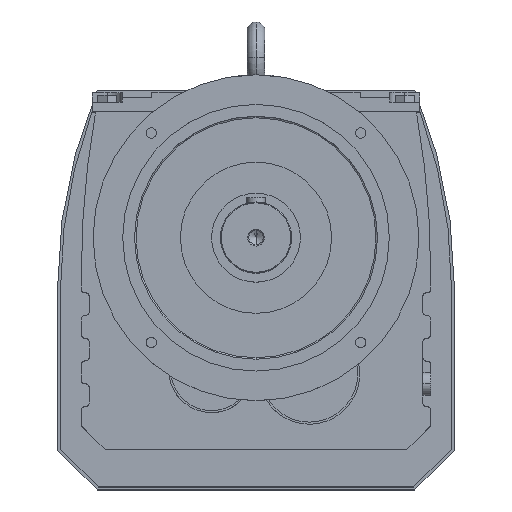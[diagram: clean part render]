
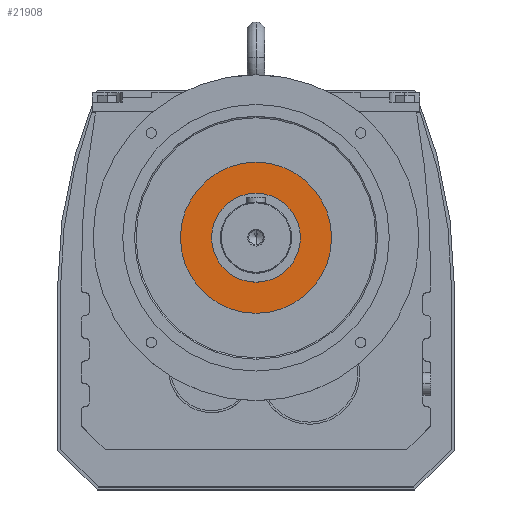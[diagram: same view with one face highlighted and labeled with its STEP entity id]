
A CAD part, top view. The second image highlights one B-rep face of the part: STEP entity #21908.
In plain terms, the highlighted planar face has unit normal (0, 0, 1).
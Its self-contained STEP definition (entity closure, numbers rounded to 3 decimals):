
#21765 = CYLINDRICAL_SURFACE('',#21766,127.575);
#21766 = AXIS2_PLACEMENT_3D('',#21767,#21768,#21769);
#21767 = CARTESIAN_POINT('',(0.,59.9,790.));
#21768 = DIRECTION('',(0.,0.,1.));
#21769 = DIRECTION('',(0.,-1.,0.));
#21795 = CYLINDRICAL_SURFACE('',#21796,127.575);
#21796 = AXIS2_PLACEMENT_3D('',#21797,#21798,#21799);
#21797 = CARTESIAN_POINT('',(0.,59.9,790.));
#21798 = DIRECTION('',(0.,0.,1.));
#21799 = DIRECTION('',(0.,-1.,0.));
#21813 = EDGE_CURVE('',#21814,#21816,#21818,.T.);
#21814 = VERTEX_POINT('',#21815);
#21815 = CARTESIAN_POINT('',(0.,-67.675,559.));
#21816 = VERTEX_POINT('',#21817);
#21817 = CARTESIAN_POINT('',(0.,187.475,559.));
#21818 = SURFACE_CURVE('',#21819,(#21824,#21830),.PCURVE_S1.);
#21819 = CIRCLE('',#21820,127.575);
#21820 = AXIS2_PLACEMENT_3D('',#21821,#21822,#21823);
#21821 = CARTESIAN_POINT('',(0.,59.9,559.));
#21822 = DIRECTION('',(0.,0.,-1.));
#21823 = DIRECTION('',(-1.,0.,0.));
#21824 = PCURVE('',#21795,#21825);
#21825 = DEFINITIONAL_REPRESENTATION('',(#21826),#21829);
#21826 = B_SPLINE_CURVE_WITH_KNOTS('',1,(#21827,#21828),.UNSPECIFIED.,
  .F.,.F.,(2,2),(4.712,7.854),
  .PIECEWISE_BEZIER_KNOTS.);
#21827 = CARTESIAN_POINT('',(6.283,-231.));
#21828 = CARTESIAN_POINT('',(3.142,-231.));
#21829 = ( GEOMETRIC_REPRESENTATION_CONTEXT(2) 
PARAMETRIC_REPRESENTATION_CONTEXT() REPRESENTATION_CONTEXT('2D SPACE',''
  ) );
#21830 = PCURVE('',#21831,#21836);
#21831 = PLANE('',#21832);
#21832 = AXIS2_PLACEMENT_3D('',#21833,#21834,#21835);
#21833 = CARTESIAN_POINT('',(-55.032,39.332,559.));
#21834 = DIRECTION('',(0.,0.,-1.));
#21835 = DIRECTION('',(-1.,0.,0.));
#21836 = DEFINITIONAL_REPRESENTATION('',(#21837),#21841);
#21837 = CIRCLE('',#21838,127.575);
#21838 = AXIS2_PLACEMENT_2D('',#21839,#21840);
#21839 = CARTESIAN_POINT('',(-55.032,20.568));
#21840 = DIRECTION('',(1.,0.));
#21841 = ( GEOMETRIC_REPRESENTATION_CONTEXT(2) 
PARAMETRIC_REPRESENTATION_CONTEXT() REPRESENTATION_CONTEXT('2D SPACE',''
  ) );
#21888 = EDGE_CURVE('',#21816,#21814,#21889,.T.);
#21889 = SURFACE_CURVE('',#21890,(#21895,#21901),.PCURVE_S1.);
#21890 = CIRCLE('',#21891,127.575);
#21891 = AXIS2_PLACEMENT_3D('',#21892,#21893,#21894);
#21892 = CARTESIAN_POINT('',(0.,59.9,559.));
#21893 = DIRECTION('',(0.,0.,-1.));
#21894 = DIRECTION('',(-1.,0.,0.));
#21895 = PCURVE('',#21765,#21896);
#21896 = DEFINITIONAL_REPRESENTATION('',(#21897),#21900);
#21897 = B_SPLINE_CURVE_WITH_KNOTS('',1,(#21898,#21899),.UNSPECIFIED.,
  .F.,.F.,(2,2),(1.571,4.712),
  .PIECEWISE_BEZIER_KNOTS.);
#21898 = CARTESIAN_POINT('',(3.142,-231.));
#21899 = CARTESIAN_POINT('',(0.,-231.));
#21900 = ( GEOMETRIC_REPRESENTATION_CONTEXT(2) 
PARAMETRIC_REPRESENTATION_CONTEXT() REPRESENTATION_CONTEXT('2D SPACE',''
  ) );
#21901 = PCURVE('',#21831,#21902);
#21902 = DEFINITIONAL_REPRESENTATION('',(#21903),#21907);
#21903 = CIRCLE('',#21904,127.575);
#21904 = AXIS2_PLACEMENT_2D('',#21905,#21906);
#21905 = CARTESIAN_POINT('',(-55.032,20.568));
#21906 = DIRECTION('',(1.,0.));
#21907 = ( GEOMETRIC_REPRESENTATION_CONTEXT(2) 
PARAMETRIC_REPRESENTATION_CONTEXT() REPRESENTATION_CONTEXT('2D SPACE',''
  ) );
#21908 = ADVANCED_FACE('',(#21909,#21975),#21831,.F.);
#21909 = FACE_BOUND('',#21910,.T.);
#21910 = EDGE_LOOP('',(#21911,#21945));
#21911 = ORIENTED_EDGE('',*,*,#21912,.F.);
#21912 = EDGE_CURVE('',#21913,#21915,#21917,.T.);
#21913 = VERTEX_POINT('',#21914);
#21914 = CARTESIAN_POINT('',(0.,-15.1,559.));
#21915 = VERTEX_POINT('',#21916);
#21916 = CARTESIAN_POINT('',(0.,134.9,559.));
#21917 = SURFACE_CURVE('',#21918,(#21923,#21934),.PCURVE_S1.);
#21918 = CIRCLE('',#21919,75.);
#21919 = AXIS2_PLACEMENT_3D('',#21920,#21921,#21922);
#21920 = CARTESIAN_POINT('',(0.,59.9,559.));
#21921 = DIRECTION('',(0.,0.,1.));
#21922 = DIRECTION('',(-1.,0.,0.));
#21923 = PCURVE('',#21831,#21924);
#21924 = DEFINITIONAL_REPRESENTATION('',(#21925),#21933);
#21925 = ( BOUNDED_CURVE() B_SPLINE_CURVE(2,(#21926,#21927,#21928,#21929
    ,#21930,#21931,#21932),.UNSPECIFIED.,.T.,.F.) 
B_SPLINE_CURVE_WITH_KNOTS((1,2,2,2,2,1),(-2.094,0.,
    2.094,4.189,6.283,8.378),
.UNSPECIFIED.) CURVE() GEOMETRIC_REPRESENTATION_ITEM() 
RATIONAL_B_SPLINE_CURVE((1.,0.5,1.,0.5,1.,0.5,1.)) REPRESENTATION_ITEM(
  '') );
#21926 = CARTESIAN_POINT('',(19.968,20.568));
#21927 = CARTESIAN_POINT('',(19.968,-109.335));
#21928 = CARTESIAN_POINT('',(-92.532,-44.383));
#21929 = CARTESIAN_POINT('',(-205.032,20.568));
#21930 = CARTESIAN_POINT('',(-92.532,85.52));
#21931 = CARTESIAN_POINT('',(19.968,150.472));
#21932 = CARTESIAN_POINT('',(19.968,20.568));
#21933 = ( GEOMETRIC_REPRESENTATION_CONTEXT(2) 
PARAMETRIC_REPRESENTATION_CONTEXT() REPRESENTATION_CONTEXT('2D SPACE',''
  ) );
#21934 = PCURVE('',#21935,#21940);
#21935 = CYLINDRICAL_SURFACE('',#21936,75.);
#21936 = AXIS2_PLACEMENT_3D('',#21937,#21938,#21939);
#21937 = CARTESIAN_POINT('',(0.,59.9,790.));
#21938 = DIRECTION('',(0.,0.,1.));
#21939 = DIRECTION('',(0.,-1.,0.));
#21940 = DEFINITIONAL_REPRESENTATION('',(#21941),#21944);
#21941 = B_SPLINE_CURVE_WITH_KNOTS('',1,(#21942,#21943),.UNSPECIFIED.,
  .F.,.F.,(2,2),(1.571,4.712),
  .PIECEWISE_BEZIER_KNOTS.);
#21942 = CARTESIAN_POINT('',(0.,-231.));
#21943 = CARTESIAN_POINT('',(3.142,-231.));
#21944 = ( GEOMETRIC_REPRESENTATION_CONTEXT(2) 
PARAMETRIC_REPRESENTATION_CONTEXT() REPRESENTATION_CONTEXT('2D SPACE',''
  ) );
#21945 = ORIENTED_EDGE('',*,*,#21946,.F.);
#21946 = EDGE_CURVE('',#21915,#21913,#21947,.T.);
#21947 = SURFACE_CURVE('',#21948,(#21953,#21964),.PCURVE_S1.);
#21948 = CIRCLE('',#21949,75.);
#21949 = AXIS2_PLACEMENT_3D('',#21950,#21951,#21952);
#21950 = CARTESIAN_POINT('',(0.,59.9,559.));
#21951 = DIRECTION('',(0.,0.,1.));
#21952 = DIRECTION('',(-1.,0.,0.));
#21953 = PCURVE('',#21831,#21954);
#21954 = DEFINITIONAL_REPRESENTATION('',(#21955),#21963);
#21955 = ( BOUNDED_CURVE() B_SPLINE_CURVE(2,(#21956,#21957,#21958,#21959
    ,#21960,#21961,#21962),.UNSPECIFIED.,.T.,.F.) 
B_SPLINE_CURVE_WITH_KNOTS((1,2,2,2,2,1),(-2.094,0.,
    2.094,4.189,6.283,8.378),
.UNSPECIFIED.) CURVE() GEOMETRIC_REPRESENTATION_ITEM() 
RATIONAL_B_SPLINE_CURVE((1.,0.5,1.,0.5,1.,0.5,1.)) REPRESENTATION_ITEM(
  '') );
#21956 = CARTESIAN_POINT('',(19.968,20.568));
#21957 = CARTESIAN_POINT('',(19.968,-109.335));
#21958 = CARTESIAN_POINT('',(-92.532,-44.383));
#21959 = CARTESIAN_POINT('',(-205.032,20.568));
#21960 = CARTESIAN_POINT('',(-92.532,85.52));
#21961 = CARTESIAN_POINT('',(19.968,150.472));
#21962 = CARTESIAN_POINT('',(19.968,20.568));
#21963 = ( GEOMETRIC_REPRESENTATION_CONTEXT(2) 
PARAMETRIC_REPRESENTATION_CONTEXT() REPRESENTATION_CONTEXT('2D SPACE',''
  ) );
#21964 = PCURVE('',#21965,#21970);
#21965 = CYLINDRICAL_SURFACE('',#21966,75.);
#21966 = AXIS2_PLACEMENT_3D('',#21967,#21968,#21969);
#21967 = CARTESIAN_POINT('',(0.,59.9,790.));
#21968 = DIRECTION('',(0.,0.,1.));
#21969 = DIRECTION('',(0.,-1.,0.));
#21970 = DEFINITIONAL_REPRESENTATION('',(#21971),#21974);
#21971 = B_SPLINE_CURVE_WITH_KNOTS('',1,(#21972,#21973),.UNSPECIFIED.,
  .F.,.F.,(2,2),(4.712,7.854),
  .PIECEWISE_BEZIER_KNOTS.);
#21972 = CARTESIAN_POINT('',(3.142,-231.));
#21973 = CARTESIAN_POINT('',(6.283,-231.));
#21974 = ( GEOMETRIC_REPRESENTATION_CONTEXT(2) 
PARAMETRIC_REPRESENTATION_CONTEXT() REPRESENTATION_CONTEXT('2D SPACE',''
  ) );
#21975 = FACE_BOUND('',#21976,.T.);
#21976 = EDGE_LOOP('',(#21977,#21978));
#21977 = ORIENTED_EDGE('',*,*,#21813,.F.);
#21978 = ORIENTED_EDGE('',*,*,#21888,.F.);
